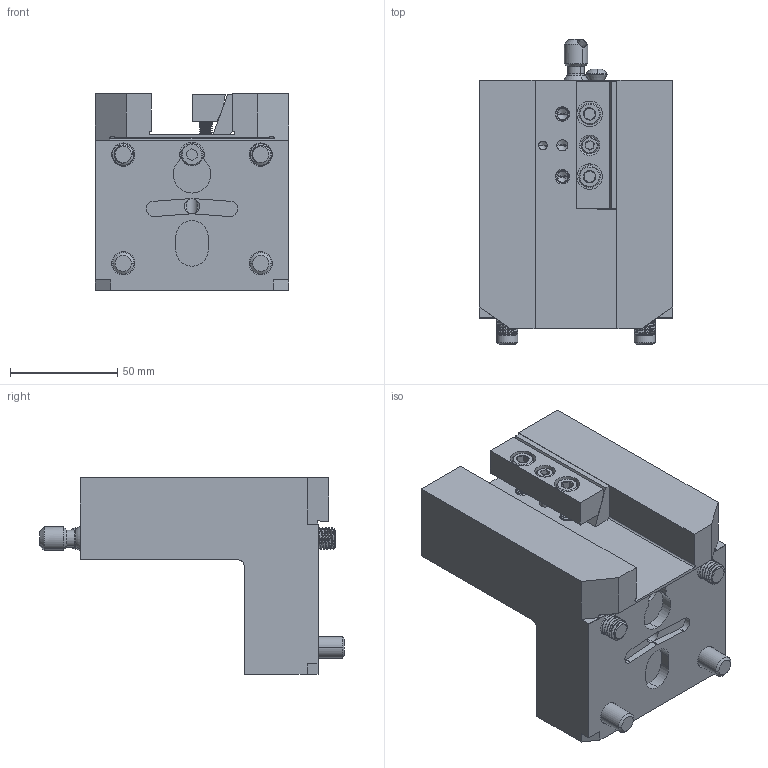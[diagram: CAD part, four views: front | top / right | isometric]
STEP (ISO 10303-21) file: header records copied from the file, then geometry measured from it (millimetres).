
FILE_DESCRIPTION (( 'STEP AP203' ), '1' );
FILE_NAME ('04-0801.STEP', '2022-07-12T16:41:03', ( '' ), ( '' ), 'SwSTEP 2.0', 'SolidWorks 2021', '' );
FILE_SCHEMA (( 'CONFIG_CONTROL_DESIGN' ));
Length unit declared in the file: inch
Products named in the file (15): 40-0011_40-0011; 57-0026; 04-0801; 20-5303; 40-0118_40-0118; 58-1627; 10000016468; 22-8749; 10000015933; 40-0003_40-0003; 20-3797; 40-1645; 20-3796; 40-1626_40-1626; 30-5852
Assembly tree (18 placements, depth 3):
  04-0801
    30-5852
      20-5303
      40-0003_40-0003
      22-8749
      57-0026
      20-3796
      20-3797
      40-1626_40-1626  x2
      40-1645
      58-1627  x2
      40-0118_40-0118  x2
      40-0011_40-0011  x2
      10000015933
      10000016468
Bounding box: 90 x 141.84 x 91.44 mm (x, y, z)
Volume: 422206.2 mm3; surface area: 94830.2 mm2
Topology: 17 solids, 17 shells, 870 faces, 2247 edges, 1429 vertices
Faces by surface type: cylinder 519, plane 169, cone 159, bspline 12, torus 11
Entity records: 27549 total; most frequent: CARTESIAN_POINT 12479, ORIENTED_EDGE 3046, DIRECTION 2586, EDGE_CURVE 1523, AXIS2_PLACEMENT_3D 981, VERTEX_POINT 977, EDGE_LOOP 656, VECTOR 624
